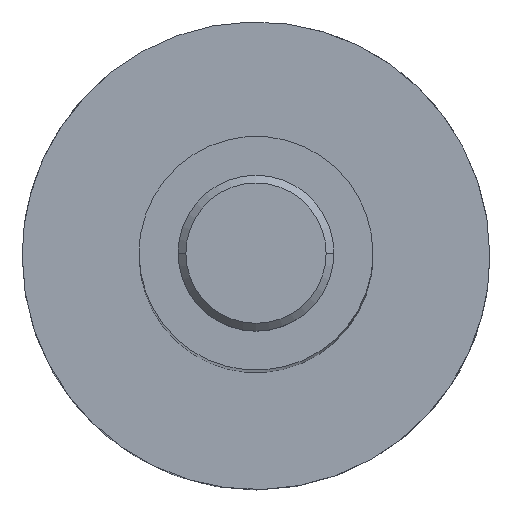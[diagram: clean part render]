
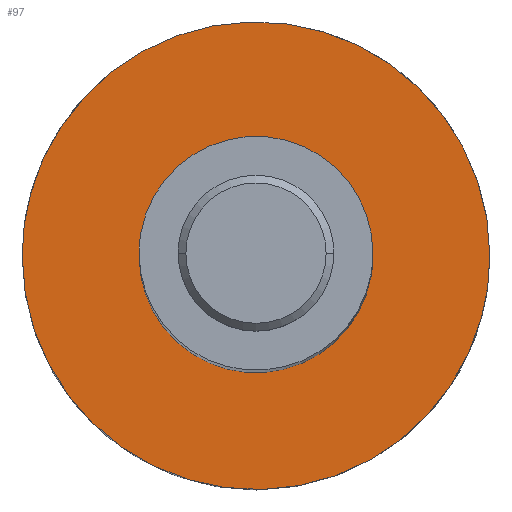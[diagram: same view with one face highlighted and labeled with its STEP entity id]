
A CAD part, top view. The second image highlights one B-rep face of the part: STEP entity #97.
In plain terms, the highlighted planar face has unit normal (0, 0, 1).
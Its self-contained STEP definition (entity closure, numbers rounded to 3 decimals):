
#35=AXIS2_PLACEMENT_3D('Plane Axis2P3D',#32,#33,#34) ;
#32=CARTESIAN_POINT('Axis2P3D Location',(0.,0.,4.5)) ;
#38=CARTESIAN_POINT('Control Point',(3.,0.,4.5)) ;
#39=CARTESIAN_POINT('Control Point',(3.,0.942,4.5)) ;
#40=CARTESIAN_POINT('Control Point',(2.63,1.885,4.5)) ;
#41=CARTESIAN_POINT('Control Point',(1.885,2.63,4.5)) ;
#42=CARTESIAN_POINT('Control Point',(0.,3.37,4.5)) ;
#43=CARTESIAN_POINT('Control Point',(-1.885,2.63,4.5)) ;
#44=CARTESIAN_POINT('Control Point',(-2.63,1.885,4.5)) ;
#45=CARTESIAN_POINT('Control Point',(-3.,0.942,4.5)) ;
#46=CARTESIAN_POINT('Control Point',(-3.,0.,4.5)) ;
#47=CARTESIAN_POINT('Vertex',(-3.,0.,4.5)) ;
#49=CARTESIAN_POINT('Vertex',(3.,0.,4.5)) ;
#53=CARTESIAN_POINT('Control Point',(-3.,0.,4.5)) ;
#54=CARTESIAN_POINT('Control Point',(-3.,-0.942,4.5)) ;
#55=CARTESIAN_POINT('Control Point',(-2.63,-1.885,4.5)) ;
#56=CARTESIAN_POINT('Control Point',(-1.885,-2.63,4.5)) ;
#57=CARTESIAN_POINT('Control Point',(0.,-3.37,4.5)) ;
#58=CARTESIAN_POINT('Control Point',(1.885,-2.63,4.5)) ;
#59=CARTESIAN_POINT('Control Point',(2.63,-1.885,4.5)) ;
#60=CARTESIAN_POINT('Control Point',(3.,-0.942,4.5)) ;
#61=CARTESIAN_POINT('Control Point',(3.,0.,4.5)) ;
#68=CARTESIAN_POINT('Control Point',(1.5,0.,4.5)) ;
#69=CARTESIAN_POINT('Control Point',(1.5,0.471,4.5)) ;
#70=CARTESIAN_POINT('Control Point',(1.315,0.942,4.5)) ;
#71=CARTESIAN_POINT('Control Point',(0.942,1.315,4.5)) ;
#72=CARTESIAN_POINT('Control Point',(0.,1.685,4.5)) ;
#73=CARTESIAN_POINT('Control Point',(-0.942,1.315,4.5)) ;
#74=CARTESIAN_POINT('Control Point',(-1.315,0.942,4.5)) ;
#75=CARTESIAN_POINT('Control Point',(-1.5,0.471,4.5)) ;
#76=CARTESIAN_POINT('Control Point',(-1.5,0.,4.5)) ;
#77=CARTESIAN_POINT('Vertex',(1.5,0.,4.5)) ;
#79=CARTESIAN_POINT('Vertex',(-1.5,0.,4.5)) ;
#83=CARTESIAN_POINT('Control Point',(-1.5,0.,4.5)) ;
#84=CARTESIAN_POINT('Control Point',(-1.5,-0.471,4.5)) ;
#85=CARTESIAN_POINT('Control Point',(-1.315,-0.942,4.5)) ;
#86=CARTESIAN_POINT('Control Point',(-0.942,-1.315,4.5)) ;
#87=CARTESIAN_POINT('Control Point',(0.,-1.685,4.5)) ;
#88=CARTESIAN_POINT('Control Point',(0.942,-1.315,4.5)) ;
#89=CARTESIAN_POINT('Control Point',(1.315,-0.942,4.5)) ;
#90=CARTESIAN_POINT('Control Point',(1.5,-0.471,4.5)) ;
#91=CARTESIAN_POINT('Control Point',(1.5,0.,4.5)) ;
#33=DIRECTION('Axis2P3D Direction',(0.,0.,1.)) ;
#34=DIRECTION('Axis2P3D XDirection',(1.,0.,0.)) ;
#64=ORIENTED_EDGE('',*,*,#51,.F.) ;
#65=ORIENTED_EDGE('',*,*,#62,.F.) ;
#94=ORIENTED_EDGE('',*,*,#81,.F.) ;
#95=ORIENTED_EDGE('',*,*,#92,.F.) ;
#96=FACE_BOUND('',#93,.T.) ;
#97=ADVANCED_FACE('\X2\96F64EF651E04F554F53\X0\',(#66,#96),#36,.T.) ;
#37=B_SPLINE_CURVE_WITH_KNOTS('',5,(#38,#39,#40,#41,#42,#43,#44,#45,#46),.UNSPECIFIED.,.F.,.U.,(6,3,6),(0.,4.712,9.425),.UNSPECIFIED.) ;
#52=B_SPLINE_CURVE_WITH_KNOTS('',5,(#53,#54,#55,#56,#57,#58,#59,#60,#61),.UNSPECIFIED.,.F.,.U.,(6,3,6),(9.425,14.137,18.85),.UNSPECIFIED.) ;
#67=B_SPLINE_CURVE_WITH_KNOTS('',5,(#68,#69,#70,#71,#72,#73,#74,#75,#76),.UNSPECIFIED.,.F.,.U.,(6,3,6),(0.,2.356,4.712),.UNSPECIFIED.) ;
#82=B_SPLINE_CURVE_WITH_KNOTS('',5,(#83,#84,#85,#86,#87,#88,#89,#90,#91),.UNSPECIFIED.,.F.,.U.,(6,3,6),(4.712,7.069,9.425),.UNSPECIFIED.) ;
#51=EDGE_CURVE('',#48,#50,#37,.F.) ;
#62=EDGE_CURVE('',#50,#48,#52,.F.) ;
#81=EDGE_CURVE('',#78,#80,#67,.T.) ;
#92=EDGE_CURVE('',#80,#78,#82,.T.) ;
#63=EDGE_LOOP('',(#64,#65)) ;
#93=EDGE_LOOP('',(#94,#95)) ;
#66=FACE_OUTER_BOUND('',#63,.T.) ;
#36=PLANE('',#35) ;
#48=VERTEX_POINT('',#47) ;
#50=VERTEX_POINT('',#49) ;
#78=VERTEX_POINT('',#77) ;
#80=VERTEX_POINT('',#79) ;
